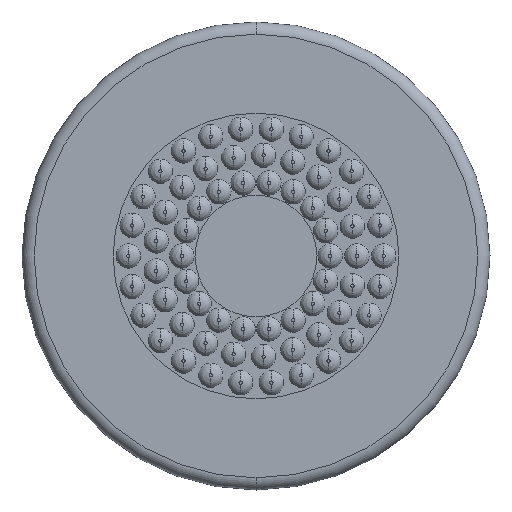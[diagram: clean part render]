
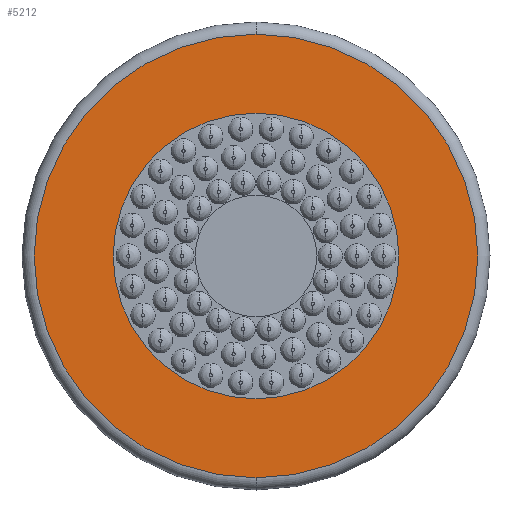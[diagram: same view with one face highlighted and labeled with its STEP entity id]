
A CAD part, front view. The second image highlights one B-rep face of the part: STEP entity #5212.
In plain terms, the highlighted planar face has unit normal (0, -1, 0).
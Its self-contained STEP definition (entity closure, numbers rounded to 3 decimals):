
#178 = EDGE_CURVE ( 'NONE', #1252, #5627, #2222, .T. ) ;
#236 = CARTESIAN_POINT ( 'NONE',  ( 0., 0., 0. ) ) ;
#453 = ORIENTED_EDGE ( 'NONE', *, *, #178, .T. ) ;
#527 = AXIS2_PLACEMENT_3D ( 'NONE', #1074, #2014, #3859 ) ;
#687 = CARTESIAN_POINT ( 'NONE',  ( 0., 0., 11.75 ) ) ;
#748 = CARTESIAN_POINT ( 'NONE',  ( 0., 0., 0. ) ) ;
#801 = CARTESIAN_POINT ( 'NONE',  ( 0., 0., -11.75 ) ) ;
#820 = DIRECTION ( 'NONE',  ( 0., 0., 1. ) ) ;
#993 = VERTEX_POINT ( 'NONE', #801 ) ;
#1074 = CARTESIAN_POINT ( 'NONE',  ( 0., 0., 0. ) ) ;
#1100 = FACE_OUTER_BOUND ( 'NONE', #2361, .T. ) ;
#1180 = AXIS2_PLACEMENT_3D ( 'NONE', #1919, #2902, #4746 ) ;
#1252 = VERTEX_POINT ( 'NONE', #5114 ) ;
#1488 = FACE_BOUND ( 'NONE', #4040, .T. ) ;
#1541 = ORIENTED_EDGE ( 'NONE', *, *, #2216, .T. ) ;
#1919 = CARTESIAN_POINT ( 'NONE',  ( 0., 0., 0. ) ) ;
#1943 = VERTEX_POINT ( 'NONE', #687 ) ;
#2014 = DIRECTION ( 'NONE',  ( 0., -1., 0. ) ) ;
#2060 = CARTESIAN_POINT ( 'NONE',  ( 0., 0., 0. ) ) ;
#2152 = DIRECTION ( 'NONE',  ( 0., -1., 0. ) ) ;
#2216 = EDGE_CURVE ( 'NONE', #5627, #1252, #3340, .T. ) ;
#2222 = CIRCLE ( 'NONE', #4736, 18.25 ) ;
#2361 = EDGE_LOOP ( 'NONE', ( #453, #1541 ) ) ;
#2640 = CIRCLE ( 'NONE', #5720, 11.75 ) ;
#2902 = DIRECTION ( 'NONE',  ( 0., 1., 0. ) ) ;
#2996 = DIRECTION ( 'NONE',  ( 0., -1., 0. ) ) ;
#3032 = DIRECTION ( 'NONE',  ( 0., 0., -1. ) ) ;
#3340 = CIRCLE ( 'NONE', #527, 18.25 ) ;
#3484 = DIRECTION ( 'NONE',  ( 0., -1., 0. ) ) ;
#3859 = DIRECTION ( 'NONE',  ( 0., 0., 1. ) ) ;
#3870 = AXIS2_PLACEMENT_3D ( 'NONE', #236, #3484, #5264 ) ;
#4040 = EDGE_LOOP ( 'NONE', ( #5296, #5209 ) ) ;
#4736 = AXIS2_PLACEMENT_3D ( 'NONE', #2060, #2152, #820 ) ;
#4746 = DIRECTION ( 'NONE',  ( 0., 0., 1. ) ) ;
#5036 = CIRCLE ( 'NONE', #3870, 11.75 ) ;
#5114 = CARTESIAN_POINT ( 'NONE',  ( 0., 0., 18.25 ) ) ;
#5193 = PLANE ( 'NONE',  #1180 ) ;
#5209 = ORIENTED_EDGE ( 'NONE', *, *, #5308, .F. ) ;
#5212 = ADVANCED_FACE ( 'NONE', ( #1488, #1100 ), #5193, .F. ) ;
#5264 = DIRECTION ( 'NONE',  ( 0., 0., -1. ) ) ;
#5296 = ORIENTED_EDGE ( 'NONE', *, *, #5866, .F. ) ;
#5308 = EDGE_CURVE ( 'NONE', #1943, #993, #2640, .T. ) ;
#5627 = VERTEX_POINT ( 'NONE', #5955 ) ;
#5720 = AXIS2_PLACEMENT_3D ( 'NONE', #748, #2996, #3032 ) ;
#5866 = EDGE_CURVE ( 'NONE', #993, #1943, #5036, .T. ) ;
#5955 = CARTESIAN_POINT ( 'NONE',  ( 0., 0., -18.25 ) ) ;
